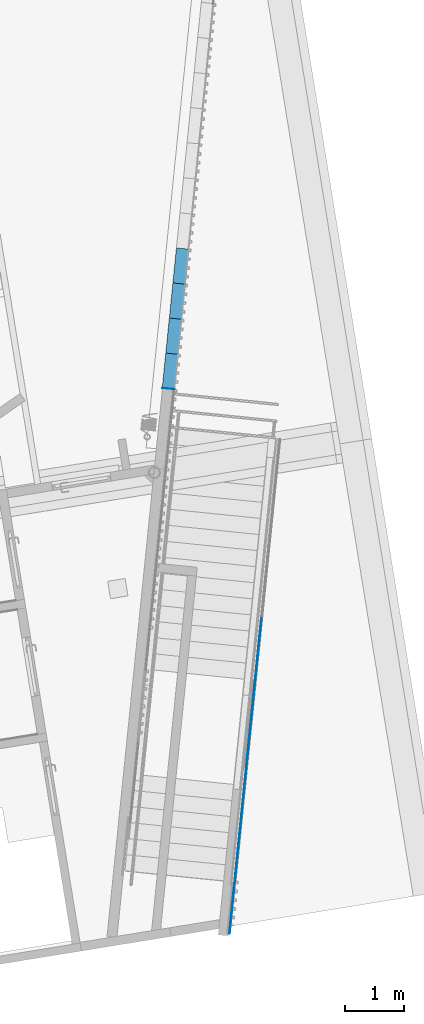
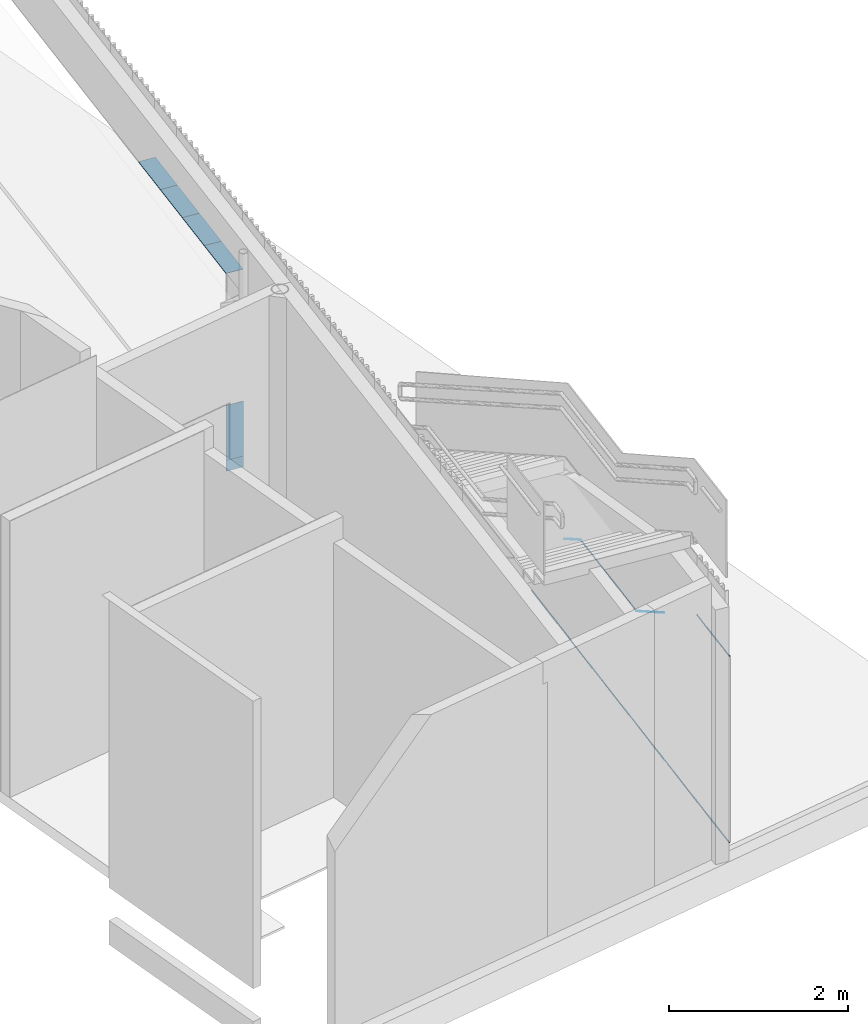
# One storey, part 4 of 23: 20 members, 3 elements without a shape of their own.
"""IFC2X3 building model written with IfcOpenShell, lengths in millimetres."""

from ifc_helpers import new_model, entity, si_unit, converted_unit, derived_unit, direction, frame, frame_2d, origin, origin_with_axes, origin_2d_with_axis, place, context, subcontext, project, spatial, polyline, rectangle, outline, extrude, source, transform, mapped, material, type_object, element, aggregate, save


model = new_model("IFC2X3")

# Units and contexts
plan_context = context("Plan", 3, precision=1e-05, world=origin_with_axes())
model_context = context("Model", 3, precision=0.01, world=origin(), true_north=direction((6.12323399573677e-17, 1.0)))
body_context = subcontext(model_context, "Body", "Model", "MODEL_VIEW")
ifc_project = project(units=[converted_unit("PLANEANGLEUNIT", "DEGREE", entity("IfcPositiveLengthMeasure", 0.0174532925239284), si_unit("PLANEANGLEUNIT", "RADIAN"), dimensions=[0, 0, 0, 0, 0, 0, 0]), si_unit("AREAUNIT", "SQUARE_METRE"), si_unit("LENGTHUNIT", "METRE", prefix="MILLI"), si_unit("MASSUNIT", "GRAM", prefix="KILO"), si_unit("POWERUNIT", "WATT"), si_unit("PRESSUREUNIT", "PASCAL", prefix="KILO"), si_unit("FORCEUNIT", "NEWTON", prefix="KILO"), si_unit("ELECTRICVOLTAGEUNIT", "VOLT"), si_unit("ELECTRICCURRENTUNIT", "AMPERE"), si_unit("THERMODYNAMICTEMPERATUREUNIT", "DEGREE_CELSIUS"), si_unit("TIMEUNIT", "SECOND"), si_unit("VOLUMEUNIT", "CUBIC_METRE"), derived_unit("LINEARVELOCITYUNIT", [(si_unit("LENGTHUNIT", "METRE"), 1), (si_unit("TIMEUNIT", "SECOND"), -1)]), derived_unit("VOLUMETRICFLOWRATEUNIT", [(si_unit("VOLUMEUNIT", "CUBIC_METRE"), 1), (si_unit("TIMEUNIT", "SECOND"), -1)]), derived_unit("THERMALTRANSMITTANCEUNIT", [(si_unit("POWERUNIT", "WATT"), 1), (si_unit("THERMODYNAMICTEMPERATUREUNIT", "KELVIN"), -1), (si_unit("AREAUNIT", "SQUARE_METRE"), -1)]), derived_unit("SOUNDPRESSUREUNIT", [(si_unit("PRESSUREUNIT", "PASCAL"), 1)])], contexts=[model_context, plan_context])

# Site, building, storey
site_placement = place(None, frame((-0.00071070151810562, 0.00438415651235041, 0.0), z_axis=(0.0, 0.0, 1.0), x_axis=(-0.160236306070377, 0.987078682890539, 0.0)))
site = spatial("IfcSite", under=ifc_project, at=site_placement, Name="Default", CompositionType="ELEMENT")
building_placement = place(site_placement, origin_with_axes())
building = spatial("IfcBuilding", under=site, at=building_placement, Name="TOO", CompositionType="ELEMENT")
storey_placement = place(building_placement, frame((0.0, 0.0, 58999.9999999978), z_axis=(0.0, 0.0, 1.0), x_axis=(1.0, 0.0, 0.0)))
storey = spatial("IfcBuildingStorey", under=building, at=storey_placement, Name="Nivå F", CompositionType="ELEMENT", Elevation=58999.9999999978)

# Curtain wall, members
curtain_wall_type = type_object("IfcCurtainWallType", Name="Curtain Wall:Curtain Wall Standard (Bruk kun denne)", PredefinedType="NOTDEFINED")
curtain_wall_1_placement = place(storey_placement, frame((0.0, 0.0, -58999.9999999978), z_axis=(0.0, 0.0, 1.0), x_axis=(1.0, 0.0, 0.0)))
curtain_wall_1 = element("IfcCurtainWall", 1, at=curtain_wall_1_placement, inside=storey, type_object=curtain_wall_type, Name="Curtain Wall:Curtain Wall Standard (Bruk kun denne)", ObjectType="Curtain Wall:Curtain Wall Standard (Bruk kun denne)")
ifc_material = material(Name="A200 - Metall - Stål")
member_type_1 = type_object("IfcMemberType", Name="Rectangular Mullion:A248-M10 vinkelprofil sokkel", PredefinedType="MULLION", material=ifc_material)
shared_shape_1 = source(origin(), body_context, "Body", "SweptSolid", [
    extrude(rectangle(XDim=300.000000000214, YDim=10.0, at=frame_2d((-1.98951966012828e-13, 0.0), x_axis=(1.0, 0.0))), frame((0.0, -5.0, -150.0), z_axis=(1.0, 0.0, 0.0), x_axis=(0.0, 0.0, -1.0)), (0.0, 0.0, 1.0), 5.0),
])
member_1_placement = place(curtain_wall_1_placement, frame((763790.418677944, -506751.885865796, 59149.9999999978), z_axis=(0.965925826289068, -0.258819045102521, 0.0), x_axis=(0.0, 0.0, 1.0)))
member_1 = element("IfcMember", 2, at=member_1_placement, type_object=member_type_1, material=ifc_material, Name="Rectangular Mullion:A248-M10 vinkelprofil sokkel", ObjectType="Rectangular Mullion:A248-M10 vinkelprofil sokkel", context=body_context, shape_type="MappedRepresentation", body=[
    mapped(shared_shape_1, transform((0.0, 0.0, 0.0), scale=1.0)),
])
member_type_2 = type_object("IfcMemberType", Name="Rectangular Mullion:A248-M10 vinkelprofil sokkel", PredefinedType="MULLION", material=ifc_material)
shared_shape_2 = source(origin(), body_context, "Body", "SweptSolid", [
    extrude(rectangle(XDim=5.0, YDim=10.0, at=origin_2d_with_axis()), frame((2.5, -5.0, -595.0), z_axis=(0.0, 0.0, 1.0), x_axis=(-1.0, 0.0, 0.0)), (0.0, 0.0, 1.0), 595.000000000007),
])
member_2_placement = place(curtain_wall_1_placement, frame((763500.640930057, -506674.240152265, 59149.9999999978), z_axis=(0.965925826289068, -0.258819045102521, 0.0), x_axis=(0.0, 0.0, 1.0)))
member_2 = element("IfcMember", 3, at=member_2_placement, type_object=member_type_2, material=ifc_material, Name="Rectangular Mullion:A248-M10 vinkelprofil sokkel", ObjectType="Rectangular Mullion:A248-M10 vinkelprofil sokkel", context=body_context, shape_type="MappedRepresentation", body=[
    mapped(shared_shape_2, transform((0.0, 0.0, 0.0), scale=1.0)),
])
member_3_placement = place(curtain_wall_1_placement, frame((763500.640930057, -506674.240152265, 61699.9999999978), z_axis=(0.965925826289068, -0.258819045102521, 0.0), x_axis=(0.0, 0.0, 1.0)))
member_3 = element("IfcMember", 4, at=member_3_placement, type_object=member_type_2, material=ifc_material, Name="Rectangular Mullion:A248-M10 vinkelprofil sokkel", ObjectType="Rectangular Mullion:A248-M10 vinkelprofil sokkel", context=body_context, shape_type="MappedRepresentation", body=[
    mapped(shared_shape_2, transform((0.0, 0.0, 0.0), scale=1.0)),
])
member_type_3 = type_object("IfcMemberType", Name="Rectangular Mullion:A248-M10 vinkelprofil sokkel", PredefinedType="MULLION", material=ifc_material)
shared_shape_3 = source(origin(), body_context, "Body", "SweptSolid", [
    extrude(outline(polyline([(-146.207817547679, -2.5), (145.506777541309, -2.5), (145.506777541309, 2.5), (-144.805737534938, 2.5), (-146.207817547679, -2.5)])), frame((2.5, -10.0, -154.49322245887), z_axis=(0.0, 1.0, 0.0), x_axis=(0.0, 0.0, -1.0)), (0.0, 0.0, 1.0), 10.0),
])
member_4_placement = place(curtain_wall_1_placement, frame((763790.418677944, -506751.885865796, 61699.9999999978), z_axis=(0.965925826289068, -0.258819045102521, 0.0), x_axis=(0.0, 0.0, 1.0)))
member_4 = element("IfcMember", 5, at=member_4_placement, type_object=member_type_3, material=ifc_material, Name="Rectangular Mullion:A248-M10 vinkelprofil sokkel", ObjectType="Rectangular Mullion:A248-M10 vinkelprofil sokkel", context=body_context, shape_type="MappedRepresentation", body=[
    mapped(shared_shape_3, transform((0.0, 0.0, 0.0), scale=1.0)),
])
aggregate(curtain_wall_1, [member_1, member_2, member_4, member_3])

curtain_wall_2_placement = place(storey_placement, frame((0.0, 0.0, -58999.9999999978), z_axis=(0.0, 0.0, 1.0), x_axis=(1.0, 0.0, 0.0)))
curtain_wall_2 = element("IfcCurtainWall", 6, at=curtain_wall_2_placement, inside=storey, type_object=curtain_wall_type, Name="Curtain Wall:Curtain Wall Standard (Bruk kun denne)", ObjectType="Curtain Wall:Curtain Wall Standard (Bruk kun denne)")
member_type_4 = type_object("IfcMemberType", Name="Rectangular Mullion:A248-M03 kantbeskyt. åpning 210 hovedpav -venstre", PredefinedType="MULLION", material=ifc_material)
shared_shape_4 = source(origin(), body_context, "Body", "SweptSolid", [
    extrude(rectangle(XDim=5.0, YDim=210.0, at=origin_2d_with_axis()), frame((-2.5, -95.0, -750.0), z_axis=(0.0, 0.0, 1.0), x_axis=(-1.0, 0.0, 0.0)), (0.0, 0.0, 1.0), 750.000000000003),
])
member_5_placement = place(curtain_wall_2_placement, frame((772221.71300802, -507064.569568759, 59899.9999999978), z_axis=(0.0, 0.0, 1.0), x_axis=(-0.965925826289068, 0.258819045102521, 0.0)))
member_5 = element("IfcMember", 7, at=member_5_placement, type_object=member_type_4, material=ifc_material, Name="Rectangular Mullion:A248-M03 kantbeskyt. åpning 210 hovedpav -venstre", ObjectType="Rectangular Mullion:A248-M03 kantbeskyt. åpning 210 hovedpav -venstre", context=body_context, shape_type="MappedRepresentation", body=[
    mapped(shared_shape_4, transform((0.0, 0.0, 0.0), scale=1.0)),
])
member_type_5 = type_object("IfcMemberType", Name="Rectangular Mullion:A248-M03 kantbeskyt. åpning 210 hovedpav -venstre", PredefinedType="MULLION", material=ifc_material)
shared_shape_5 = source(origin(), body_context, "Body", "SweptSolid", [
    extrude(rectangle(XDim=5.0, YDim=210.0, at=origin_2d_with_axis()), frame((-2.5, -95.0, -150.0), z_axis=(0.0, 0.0, 1.0), x_axis=(-1.0, 0.0, 0.0)), (0.0, 0.0, 1.0), 150.000000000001),
])
member_6_placement = place(curtain_wall_2_placement, frame((772221.71300802, -507064.569568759, 59149.9999999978), z_axis=(0.0, 0.0, 1.0), x_axis=(-0.965925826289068, 0.258819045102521, 0.0)))
member_6 = element("IfcMember", 8, at=member_6_placement, type_object=member_type_5, material=ifc_material, Name="Rectangular Mullion:A248-M03 kantbeskyt. åpning 210 hovedpav -venstre", ObjectType="Rectangular Mullion:A248-M03 kantbeskyt. åpning 210 hovedpav -venstre", context=body_context, shape_type="MappedRepresentation", body=[
    mapped(shared_shape_5, transform((0.0, 0.0, 0.0), scale=1.0)),
])
member_type_6 = type_object("IfcMemberType", Name="Rectangular Mullion:A248-M03 kantbeskyt. åpning 210 hovedpav", PredefinedType="MULLION", material=ifc_material)
shared_shape_6 = source(origin(), body_context, "Body", "SweptSolid", [
    extrude(rectangle(XDim=5.0, YDim=210.0, at=origin_2d_with_axis()), frame((0.0, -95.0, -600.0), z_axis=(0.0, 0.0, 1.0), x_axis=(-1.0, 0.0, 0.0)), (0.0, 0.0, 1.0), 600.000000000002),
])
member_7_placement = place(curtain_wall_2_placement, frame((774539.934991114, -507685.735277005, 61699.9999999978), z_axis=(0.965925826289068, -0.258819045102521, 0.0), x_axis=(0.0, 0.0, 1.0)))
member_7 = element("IfcMember", 9, at=member_7_placement, type_object=member_type_6, material=ifc_material, Name="Rectangular Mullion:A248-M03 kantbeskyt. åpning 210 hovedpav", ObjectType="Rectangular Mullion:A248-M03 kantbeskyt. åpning 210 hovedpav", context=body_context, shape_type="MappedRepresentation", body=[
    mapped(shared_shape_6, transform((0.0, 0.0, 0.0), scale=1.0)),
])
member_8_placement = place(curtain_wall_2_placement, frame((773380.823999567, -507375.152422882, 61699.9999999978), z_axis=(0.965925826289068, -0.258819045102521, 0.0), x_axis=(0.0, 0.0, 1.0)))
member_8 = element("IfcMember", 10, at=member_8_placement, type_object=member_type_6, material=ifc_material, Name="Rectangular Mullion:A248-M03 kantbeskyt. åpning 210 hovedpav", ObjectType="Rectangular Mullion:A248-M03 kantbeskyt. åpning 210 hovedpav", context=body_context, shape_type="MappedRepresentation", body=[
    mapped(shared_shape_6, transform((0.0, 0.0, 0.0), scale=1.0)),
])
member_9_placement = place(curtain_wall_2_placement, frame((773960.37949534, -507530.443849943, 61699.9999999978), z_axis=(0.965925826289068, -0.258819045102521, 0.0), x_axis=(0.0, 0.0, 1.0)))
member_9 = element("IfcMember", 11, at=member_9_placement, type_object=member_type_6, material=ifc_material, Name="Rectangular Mullion:A248-M03 kantbeskyt. åpning 210 hovedpav", ObjectType="Rectangular Mullion:A248-M03 kantbeskyt. åpning 210 hovedpav", context=body_context, shape_type="MappedRepresentation", body=[
    mapped(shared_shape_6, transform((0.0, 0.0, 0.0), scale=1.0)),
])
member_type_7 = type_object("IfcMemberType", Name="Rectangular Mullion:A248-M03 kantbeskyt. åpning 210 hovedpav", PredefinedType="MULLION", material=ifc_material)
shared_shape_7 = source(origin(), body_context, "Body", "SweptSolid", [
    extrude(rectangle(XDim=5.0, YDim=210.0, at=origin_2d_with_axis()), frame((0.0, -95.0, -595.0), z_axis=(0.0, 0.0, 1.0), x_axis=(-1.0, 0.0, 0.0)), (0.0, 0.0, 1.0), 595.000000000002),
])
member_10_placement = place(curtain_wall_2_placement, frame((772801.268503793, -507219.86099582, 61699.9999999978), z_axis=(0.965925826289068, -0.258819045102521, 0.0), x_axis=(0.0, 0.0, 1.0)))
member_10 = element("IfcMember", 12, at=member_10_placement, type_object=member_type_7, material=ifc_material, Name="Rectangular Mullion:A248-M03 kantbeskyt. åpning 210 hovedpav", ObjectType="Rectangular Mullion:A248-M03 kantbeskyt. åpning 210 hovedpav", context=body_context, shape_type="MappedRepresentation", body=[
    mapped(shared_shape_7, transform((0.0, 0.0, 0.0), scale=1.0)),
])
aggregate(curtain_wall_2, [member_7, member_8, member_10, member_5, member_6, member_9])

curtain_wall_3_placement = place(storey_placement, frame((0.0, 0.0, -58999.9999999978), z_axis=(0.0, 0.0, 1.0), x_axis=(1.0, 0.0, 0.0)))
curtain_wall_3 = element("IfcCurtainWall", 13, at=curtain_wall_3_placement, inside=storey, type_object=curtain_wall_type, Name="Curtain Wall:Curtain Wall Standard (Bruk kun denne)", ObjectType="Curtain Wall:Curtain Wall Standard (Bruk kun denne)")
member_type_8 = type_object("IfcMemberType", Name="Rectangular Mullion:A248-M10 vinkelprofil sokkel", PredefinedType="MULLION", material=ifc_material)
shared_shape_8 = source(origin(), body_context, "Body", "SweptSolid", [
    extrude(rectangle(XDim=5.0, YDim=10.0, at=origin_2d_with_axis()), frame((2.5, -5.0, -900.0), z_axis=(0.0, 0.0, 1.0), x_axis=(-1.0, 0.0, 0.0)), (0.0, 0.0, 1.0), 900.000000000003),
])
member_11_placement = place(curtain_wall_3_placement, frame((765529.085165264, -507217.760146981, 59149.9999999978), z_axis=(0.965925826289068, -0.258819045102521, 0.0), x_axis=(0.0, 0.0, 1.0)))
member_11 = element("IfcMember", 14, at=member_11_placement, type_object=member_type_8, material=ifc_material, Name="Rectangular Mullion:A248-M10 vinkelprofil sokkel", ObjectType="Rectangular Mullion:A248-M10 vinkelprofil sokkel", context=body_context, shape_type="MappedRepresentation", body=[
    mapped(shared_shape_8, transform((0.0, 0.0, 0.0), scale=1.0)),
])
member_12_placement = place(curtain_wall_3_placement, frame((768137.084896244, -507916.571568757, 59149.9999999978), z_axis=(0.965925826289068, -0.258819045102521, 0.0), x_axis=(0.0, 0.0, 1.0)))
member_12 = element("IfcMember", 15, at=member_12_placement, type_object=member_type_8, material=ifc_material, Name="Rectangular Mullion:A248-M10 vinkelprofil sokkel", ObjectType="Rectangular Mullion:A248-M10 vinkelprofil sokkel", context=body_context, shape_type="MappedRepresentation", body=[
    mapped(shared_shape_8, transform((0.0, 0.0, 0.0), scale=1.0)),
])
member_13_placement = place(curtain_wall_3_placement, frame((766398.418408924, -507450.697287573, 59149.9999999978), z_axis=(0.965925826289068, -0.258819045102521, 0.0), x_axis=(0.0, 0.0, 1.0)))
member_13 = element("IfcMember", 16, at=member_13_placement, type_object=member_type_8, material=ifc_material, Name="Rectangular Mullion:A248-M10 vinkelprofil sokkel", ObjectType="Rectangular Mullion:A248-M10 vinkelprofil sokkel", context=body_context, shape_type="MappedRepresentation", body=[
    mapped(shared_shape_8, transform((0.0, 0.0, 0.0), scale=1.0)),
])
member_14_placement = place(curtain_wall_3_placement, frame((767267.751652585, -507683.634428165, 59149.9999999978), z_axis=(0.965925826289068, -0.258819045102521, 0.0), x_axis=(0.0, 0.0, 1.0)))
member_14 = element("IfcMember", 17, at=member_14_placement, type_object=member_type_8, material=ifc_material, Name="Rectangular Mullion:A248-M10 vinkelprofil sokkel", ObjectType="Rectangular Mullion:A248-M10 vinkelprofil sokkel", context=body_context, shape_type="MappedRepresentation", body=[
    mapped(shared_shape_8, transform((0.0, 0.0, 0.0), scale=1.0)),
])
member_type_9 = type_object("IfcMemberType", Name="Rectangular Mullion:A248-M10 vinkelprofil sokkel", PredefinedType="MULLION", material=ifc_material)
shared_shape_9 = source(origin(), body_context, "Body", "SweptSolid", [
    extrude(rectangle(XDim=900.000000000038, YDim=10.0, at=origin_2d_with_axis()), frame((0.0, -5.0, -450.0), z_axis=(1.0, 0.0, 0.0), x_axis=(0.0, 0.0, -1.0)), (0.0, 0.0, 1.0), 5.0),
])
member_15_placement = place(curtain_wall_3_placement, frame((764659.751921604, -506984.823006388, 59149.9999999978), z_axis=(0.965925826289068, -0.258819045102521, 0.0), x_axis=(0.0, 0.0, 1.0)))
member_15 = element("IfcMember", 18, at=member_15_placement, type_object=member_type_9, material=ifc_material, Name="Rectangular Mullion:A248-M10 vinkelprofil sokkel", ObjectType="Rectangular Mullion:A248-M10 vinkelprofil sokkel", context=body_context, shape_type="MappedRepresentation", body=[
    mapped(shared_shape_9, transform((0.0, 0.0, 0.0), scale=1.0)),
])
member_type_10 = type_object("IfcMemberType", Name="Rectangular Mullion:A248-M10 vinkelprofil sokkel", PredefinedType="MULLION", material=ifc_material)
shared_shape_10 = source(origin(), body_context, "Body", "SweptSolid", [
    extrude(outline(polyline([(-254.566611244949, -2.5), (255.26765125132, -2.5), (253.865571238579, 2.5), (-254.566611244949, 2.5), (-254.566611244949, -2.5)])), frame((-2.5, -10.0, -254.566611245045), z_axis=(0.0, 1.0, 0.0), x_axis=(0.0, 0.0, -1.0)), (0.0, 0.0, 1.0), 10.0),
])
member_16_placement = place(curtain_wall_3_placement, frame((767267.751652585, -507683.634428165, 60436.91323179), z_axis=(0.825092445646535, -0.22108285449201, -0.519946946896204), x_axis=(0.502230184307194, -0.134572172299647, 0.854198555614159)))
member_16 = element("IfcMember", 19, at=member_16_placement, type_object=member_type_10, material=ifc_material, Name="Rectangular Mullion:A248-M10 vinkelprofil sokkel", ObjectType="Rectangular Mullion:A248-M10 vinkelprofil sokkel", context=body_context, shape_type="MappedRepresentation", body=[
    mapped(shared_shape_10, transform((0.0, 0.0, 0.0), scale=1.0)),
])
member_type_11 = type_object("IfcMemberType", Name="Rectangular Mullion:A248-M10 vinkelprofil sokkel", PredefinedType="MULLION", material=ifc_material)
shared_shape_11 = source(origin(), body_context, "Body", "SweptSolid", [
    extrude(rectangle(XDim=5.0, YDim=10.0, at=origin_2d_with_axis()), frame((-2.5, -5.0, -900.0), z_axis=(0.0, 0.0, 1.0), x_axis=(-1.0, 0.0, 0.0)), (0.0, 0.0, 1.0), 899.999999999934),
])
member_17_placement = place(curtain_wall_3_placement, frame((766398.418408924, -507450.697287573, 60701.9999999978), z_axis=(0.965925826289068, -0.258819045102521, 0.0), x_axis=(0.0, 0.0, 1.0)))
member_17 = element("IfcMember", 20, at=member_17_placement, type_object=member_type_11, material=ifc_material, Name="Rectangular Mullion:A248-M10 vinkelprofil sokkel", ObjectType="Rectangular Mullion:A248-M10 vinkelprofil sokkel", context=body_context, shape_type="MappedRepresentation", body=[
    mapped(shared_shape_11, transform((0.0, 0.0, 0.0), scale=1.0)),
])
member_type_12 = type_object("IfcMemberType", Name="Rectangular Mullion:A248-M10 vinkelprofil sokkel", PredefinedType="MULLION", material=ifc_material)
shared_shape_12 = source(origin(), body_context, "Body", "SweptSolid", [
    extrude(outline(polyline([(-80.6003653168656, -2.5), (79.8993253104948, -2.5), (81.3014053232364, 2.5), (-80.6003653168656, 2.5), (-80.6003653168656, -2.5)])), frame((-2.5, -10.0, -80.6003653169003), z_axis=(0.0, 1.0, 0.0), x_axis=(0.0, 0.0, -1.0)), (0.0, 0.0, 1.0), 10.0),
])
member_18_placement = place(curtain_wall_3_placement, frame((765529.085165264, -507217.760146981, 60701.9999999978), z_axis=(0.965925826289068, -0.258819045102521, 0.0), x_axis=(0.0, 0.0, 1.0)))
member_18 = element("IfcMember", 21, at=member_18_placement, type_object=member_type_12, material=ifc_material, Name="Rectangular Mullion:A248-M10 vinkelprofil sokkel", ObjectType="Rectangular Mullion:A248-M10 vinkelprofil sokkel", context=body_context, shape_type="MappedRepresentation", body=[
    mapped(shared_shape_12, transform((0.0, 0.0, 0.0), scale=1.0)),
])
member_type_13 = type_object("IfcMemberType", Name="Rectangular Mullion:A248-M10 vinkelprofil sokkel", PredefinedType="MULLION", material=ifc_material)
shared_shape_13 = source(origin(), body_context, "Body", "SweptSolid", [
    extrude(outline(polyline([(-232.600674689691, -2.5), (231.89963468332, -2.5), (231.89963468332, 2.5), (-231.198594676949, 2.5), (-232.600674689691, -2.5)])), frame((-2.5, -10.0, -232.600674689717), z_axis=(0.0, 1.0, 0.0), x_axis=(0.0, 0.0, -1.0)), (0.0, 0.0, 1.0), 10.0),
])
member_19_placement = place(curtain_wall_3_placement, frame((766847.091254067, -507570.918814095, 60701.9999999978), z_axis=(0.965925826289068, -0.258819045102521, 0.0), x_axis=(0.0, 0.0, 1.0)))
member_19 = element("IfcMember", 22, at=member_19_placement, type_object=member_type_13, material=ifc_material, Name="Rectangular Mullion:A248-M10 vinkelprofil sokkel", ObjectType="Rectangular Mullion:A248-M10 vinkelprofil sokkel", context=body_context, shape_type="MappedRepresentation", body=[
    mapped(shared_shape_13, transform((0.0, 0.0, 0.0), scale=1.0)),
])
member_type_14 = type_object("IfcMemberType", Name="Rectangular Mullion:A248-M10 vinkelprofil sokkel", PredefinedType="MULLION", material=ifc_material)
shared_shape_14 = source(origin(), body_context, "Body", "SweptSolid", [
    extrude(outline(polyline([(-432.511549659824, -2.49999999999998), (433.212589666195, -2.50000000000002), (433.212589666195, 2.49999999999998), (-433.913629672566, 2.50000000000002), (-432.511549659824, -2.49999999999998)])), frame((-2.49999999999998, -10.0, -432.511549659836), z_axis=(0.0, 1.0, 0.0), x_axis=(0.0, 0.0, -1.0)), (0.0, 0.0, 1.0), 10.0),
])
member_20_placement = place(curtain_wall_3_placement, frame((765374.054368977, -507176.219770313, 60701.9999999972), z_axis=(0.825092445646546, -0.221082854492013, -0.519946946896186), x_axis=(0.502230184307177, -0.134572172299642, 0.85419855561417)))
member_20 = element("IfcMember", 23, at=member_20_placement, type_object=member_type_14, material=ifc_material, Name="Rectangular Mullion:A248-M10 vinkelprofil sokkel", ObjectType="Rectangular Mullion:A248-M10 vinkelprofil sokkel", context=body_context, shape_type="MappedRepresentation", body=[
    mapped(shared_shape_14, transform((0.0, 0.0, 0.0), scale=1.0)),
])
aggregate(curtain_wall_3, [member_11, member_15, member_12, member_13, member_14, member_16, member_17, member_18, member_19, member_20])

save(model, "model.ifc")
